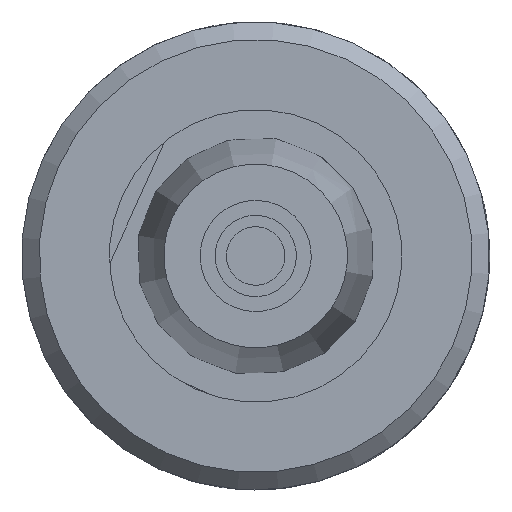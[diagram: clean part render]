
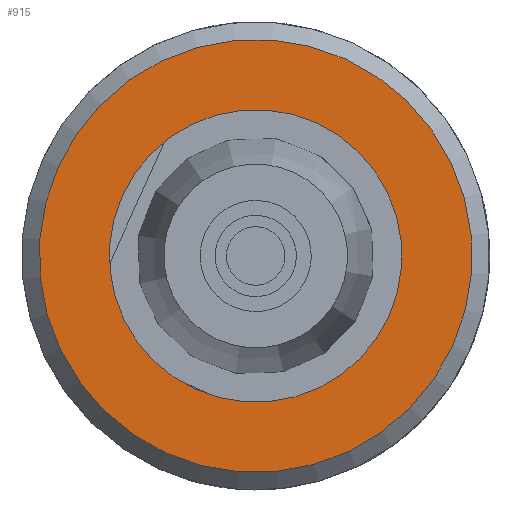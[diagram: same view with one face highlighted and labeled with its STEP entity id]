
A CAD part, front view. The second image highlights one B-rep face of the part: STEP entity #915.
In plain terms, the highlighted planar face has unit normal (0, -1, 0).
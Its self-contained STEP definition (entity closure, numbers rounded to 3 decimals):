
#95=FACE_BOUND('',#220,.T.);
#149=FACE_OUTER_BOUND('',#219,.T.);
#219=EDGE_LOOP('',(#669));
#220=EDGE_LOOP('',(#670));
#419=CIRCLE('',#1193,3.7);
#421=CIRCLE('',#1197,2.5);
#467=VERTEX_POINT('',#1659);
#469=VERTEX_POINT('',#1665);
#550=EDGE_CURVE('',#467,#467,#419,.T.);
#552=EDGE_CURVE('',#469,#469,#421,.T.);
#669=ORIENTED_EDGE('',*,*,#550,.F.);
#670=ORIENTED_EDGE('',*,*,#552,.F.);
#871=PLANE('',#1196);
#915=ADVANCED_FACE('',(#149,#95),#871,.T.);
#1193=AXIS2_PLACEMENT_3D('',#1660,#1344,#1345);
#1196=AXIS2_PLACEMENT_3D('',#1664,#1350,#1351);
#1197=AXIS2_PLACEMENT_3D('',#1666,#1352,#1353);
#1344=DIRECTION('center_axis',(0.,1.,0.));
#1345=DIRECTION('ref_axis',(-1.,0.,0.));
#1350=DIRECTION('center_axis',(0.,-1.,0.));
#1351=DIRECTION('ref_axis',(0.,0.,-1.));
#1352=DIRECTION('center_axis',(0.,-1.,0.));
#1353=DIRECTION('ref_axis',(1.,0.,0.));
#1659=CARTESIAN_POINT('',(3.7,0.,0.));
#1660=CARTESIAN_POINT('Origin',(0.,0.,0.));
#1664=CARTESIAN_POINT('Origin',(3.25,0.,0.));
#1665=CARTESIAN_POINT('',(2.5,0.,0.));
#1666=CARTESIAN_POINT('Origin',(0.,0.,0.));
